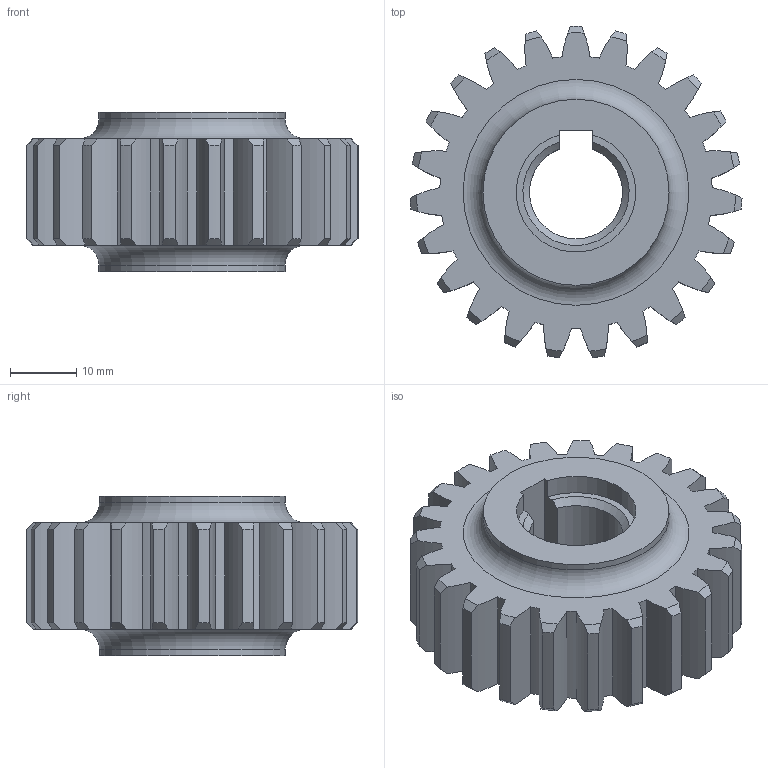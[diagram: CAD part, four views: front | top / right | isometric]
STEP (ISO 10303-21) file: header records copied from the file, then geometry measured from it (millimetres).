
FILE_DESCRIPTION(/* description */ (''),/* implementation_level */ '2;1');
FILE_NAME(/* name */ '',/* time_stamp */ '2025-01-06T15:38:56+09:00',/* author */ ('jhkim'),/* organization */ (''),/* preprocessor_version */ 'ST-DEVELOPER v20',/* originating_system */ 'Autodesk Inventor 2025',/* authorisation */ '');
FILE_SCHEMA (('AUTOMOTIVE_DESIGN { 1 0 10303 214 3 1 1 }'));
Length unit declared in the file: millimetre
Products named in the file (1): 스퍼기어B
Bounding box: 49.97 x 49.87 x 24 mm (x, y, z)
Volume: 27333.3 mm3; surface area: 9205.5 mm2
Topology: 1 solids, 1 shells, 153 faces, 447 edges, 298 vertices
Faces by surface type: cylinder 96, cone 47, plane 8, torus 2
Full cylindrical faces by diameter (mm): 28 x2
Entity records: 5343 total; most frequent: CARTESIAN_POINT 1179, DIRECTION 906, ORIENTED_EDGE 894, EDGE_CURVE 447, AXIS2_PLACEMENT_3D 399, VERTEX_POINT 298, CIRCLE 245, EDGE_LOOP 157
